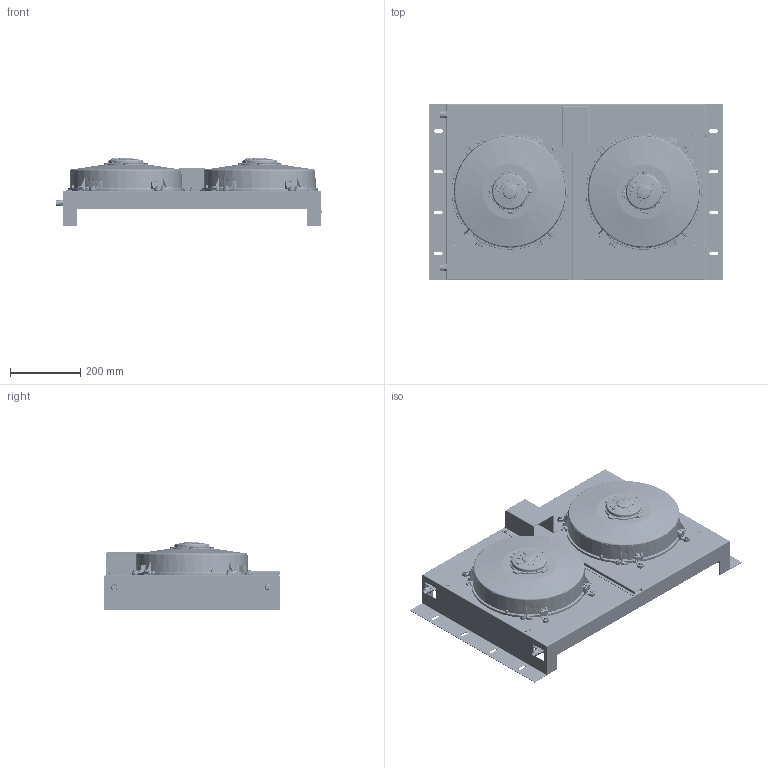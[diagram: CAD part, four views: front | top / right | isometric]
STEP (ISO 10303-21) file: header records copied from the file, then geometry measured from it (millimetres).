
FILE_DESCRIPTION((''),'2;1');
FILE_NAME('X:\1-Parts Data\Units\.3D Models\07-34006, Unit Assembly.stp','2015-03-30T13:13:01',('justin'),(''),'Autodesk Inventor 2012','Autodesk Inventor 2012','');
FILE_SCHEMA(('AUTOMOTIVE_DESIGN { 1 0 10303 214 1 1 1 1 }'));
Length unit declared in the file: inch
Products named in the file (23): 07-34006, Unit Assembly; 34-60000; Hat Channel Bracket-02; Hat Channel Bracket-01; One Quarter  by 20 x 1.875 inch Weldstud; one quarter  by 20 weldstud; One Quarter by 20  Weldnut; 10-24 x .5 Weldstud; 34-60001; 34-60002; 02-4012S; Member 03-01702; 12-00071; 02-4010S, Pancake Motor Mounting Leg; 12-00002  1-4 x .75 x 20 bolt; 12-00003  1-4 x 3-8 x 20 bolt; 12-00057 1-4X20 WhizNut; 12-00041, 10-24 Keps Nut; 07-01466, Radiator Mount Condenser; 07-01466.base; 07-01466.fittings; 12-00001, 1(_FS)4-20 Nylon Nut
Assembly tree (87 placements, depth 3):
  07-34006, Unit Assembly
    34-60000
      34-60000
      Hat Channel Bracket-02
      Hat Channel Bracket-01
      One Quarter  by 20 x 1.875 inch Weldstud  x4
      one quarter  by 20 weldstud  x2
      One Quarter by 20  Weldnut  x20
      10-24 x .5 Weldstud  x3
    34-60001
    34-60002
    02-4012S  x2
    Member 03-01702  x2
    12-00071  x8
    02-4010S, Pancake Motor Mounting Leg  x8
    12-00002  1-4 x .75 x 20 bolt  x16
    12-00003  1-4 x 3-8 x 20 bolt  x4
    12-00057 1-4X20 WhizNut  x2
    12-00041, 10-24 Keps Nut  x3
    07-01466, Radiator Mount Condenser
      07-01466.base
      07-01466.fittings
    12-00001, 1(_FS)4-20 Nylon Nut  x4
Bounding box: 835.2 x 501.65 x 196.3 mm (x, y, z)
Volume: 8525306.8 mm3; surface area: 2852429.4 mm2
Topology: 84 solids, 3440 shells, 5387 faces, 22656 edges, 20856 vertices
Faces by surface type: plane 1818, cylinder 1282, bspline 914, cone 670, torus 543, sphere 160
Full cylindrical faces by diameter (mm): 4.674 x3, 4.826 x3, 4.978 x20, 5.08 x2, 5.182 x4, 5.334 x2, 5.461 x58, 5.499 x8, 6.35 x32, 6.731 x25, 7.925 x4, 7.938 x20, 8.89 x8, 9.525 x4, 10.465 x1, 11.481 x8, 12.7 x20, 13.741 x1, 13.894 x1, 15.088 x2, 15.646 x1, 16.256 x1, 18.923 x9, 304.8 x2
Entity records: 171340 total; most frequent: CARTESIAN_POINT 79939, DIRECTION 15447, ORIENTED_EDGE 12340, EDGE_CURVE 10650, VERTEX_POINT 10097, AXIS2_PLACEMENT_3D 6102, CIRCLE 3726, VECTOR 3243
